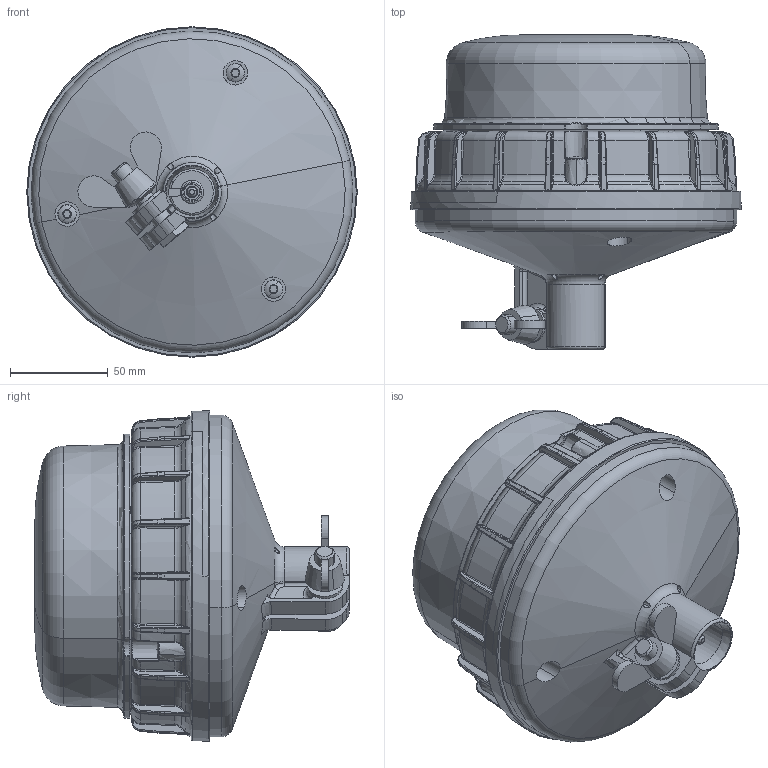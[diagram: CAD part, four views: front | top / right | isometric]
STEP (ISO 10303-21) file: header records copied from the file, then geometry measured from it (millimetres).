
FILE_DESCRIPTION(('CATIA V5 STEP Exchange','CAx-IF Rec.Pracs.--- Model Styling and Organization---1.5--- 2016-08-15','CAx-IF Rec.Pracs.---Supplemental Geometry---1.0---2011-11-01','CAx-IF Rec.Pracs.--- Composite Materials ---1.1---2010-07-15'),'2;1');
FILE_NAME('E:\tmp\ddx\2011221\HELLA_3D_data_K-LED_2-0_pipe_socket_2XD-011-557-20.stp','2022-01-18T07:29:31+00:00',('none'),('none'),'CATIA Version 5-6 Release 2020 SP3 HF9','CATIA V5 STEP AP214 Edition 3 v2','none');
FILE_SCHEMA(('AUTOMOTIVE_DESIGN { 1 0 10303 214 3 1 1 1 }'));
Products named in the file (1): 10001093547_D10_001
Bounding box: 169.38 x 161.05 x 169.38 mm (x, y, z)
Volume: 1908338.6 mm3; surface area: 126899.3 mm2
Topology: 2 solids, 4 shells, 1477 faces, 3653 edges, 2171 vertices
Faces by surface type: bspline 643, torus 223, cylinder 193, plane 178, cone 166, extrusion 36, sphere 32, revolution 6
Entity records: 77202 total; most frequent: CARTESIAN_POINT 49532, ORIENTED_EDGE 7242, EDGE_CURVE 3621, DIRECTION 2778, VERTEX_POINT 2171, B_SPLINE_CURVE_WITH_KNOTS 2148, AXIS2_PLACEMENT_3D 1601, EDGE_LOOP 1512
